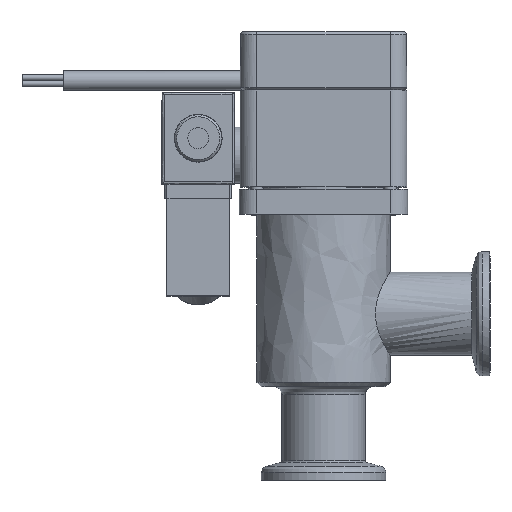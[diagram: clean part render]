
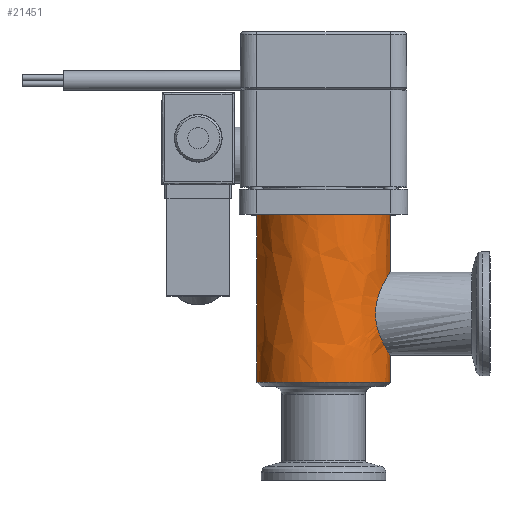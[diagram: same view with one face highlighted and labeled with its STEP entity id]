
A CAD part, top view. The second image highlights one B-rep face of the part: STEP entity #21451.
In plain terms, the highlighted free-form (B-spline) face has degree [2, 1] with [7, 2] control points.
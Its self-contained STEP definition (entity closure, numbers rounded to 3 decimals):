
#19988=CARTESIAN_POINT('V34',(23.5,16.,
   0.0));
#19989=VERTEX_POINT('V34',#19988);
#19997=CARTESIAN_POINT('E59',(23.5,16.,
   0.));
#19998=CARTESIAN_POINT('E59',(23.5,16.,
   27.713));
#19999=CARTESIAN_POINT('E59',(23.5,-8.,
   13.856));
#20000=CARTESIAN_POINT('E59',(23.5,-32.0,0.)
   );
#20001=CARTESIAN_POINT('E59',(23.5,-8.,
   -13.856));
#20002=CARTESIAN_POINT('E59',(23.5,16.,
   -27.713));
#20003=CARTESIAN_POINT('E59',(23.5,16.,
   0.));
#20011=(BOUNDED_CURVE()B_SPLINE_CURVE(2,(#19997,#19998,#19999,
   #20000,#20001,#20002,#20003),.CIRCULAR_ARC.,.T.,.U.)
   B_SPLINE_CURVE_WITH_KNOTS((3,2,2,3),(2.0,24.214,
   46.429,68.643),.UNSPECIFIED.)CURVE()
   GEOMETRIC_REPRESENTATION_ITEM()RATIONAL_B_SPLINE_CURVE((1.0,
   0.5,1.0,0.5,1.0,0.5,1.0)
   )REPRESENTATION_ITEM('E59'));
#20012=EDGE_CURVE('E59',#19989,#19989,#20011,.T.);
#20059=CARTESIAN_POINT('V7',(63.7,16.,
   0.0));
#20060=VERTEX_POINT('V7',#20059);
#20084=CARTESIAN_POINT('E10',(63.7,16.,
   0.0));
#20085=CARTESIAN_POINT('E10',(63.7,16.,
   -27.713));
#20086=CARTESIAN_POINT('E10',(63.7,-8.,
   -13.856));
#20087=CARTESIAN_POINT('E10',(63.7,-32.,
   0.));
#20088=CARTESIAN_POINT('E10',(63.7,-8.,
   13.856));
#20089=CARTESIAN_POINT('E10',(63.7,16.,
   27.713));
#20090=CARTESIAN_POINT('E10',(63.7,16.,
   0.0));
#20098=(BOUNDED_CURVE()B_SPLINE_CURVE(2,(#20084,#20085,#20086,
   #20087,#20088,#20089,#20090),.CIRCULAR_ARC.,.T.,.U.)
   B_SPLINE_CURVE_WITH_KNOTS((3,2,2,3),(0.0,197.184,
   394.368,591.552),.UNSPECIFIED.)CURVE()
   GEOMETRIC_REPRESENTATION_ITEM()RATIONAL_B_SPLINE_CURVE((1.0,
   0.5,1.0,0.5,1.0,0.5,1.0)
   )REPRESENTATION_ITEM('E10'));
#20099=EDGE_CURVE('E10',#20060,#20060,#20098,.T.);
#21360=CARTESIAN_POINT('F26',(22.5,16.,
   0.0));
#21361=CARTESIAN_POINT('F26',(22.5,16.,
   27.713));
#21362=CARTESIAN_POINT('F26',(22.5,-8.,
   13.856));
#21363=CARTESIAN_POINT('F26',(22.5,-32.,
   0.));
#21364=CARTESIAN_POINT('F26',(22.5,-8.,
   -13.856));
#21365=CARTESIAN_POINT('F26',(22.5,16.,
   -27.713));
#21366=CARTESIAN_POINT('F26',(22.5,16.,
   0.0));
#21367=CARTESIAN_POINT('F26',(63.7,16.,
   0.0));
#21368=CARTESIAN_POINT('F26',(63.7,16.,
   27.713));
#21369=CARTESIAN_POINT('F26',(63.7,-8.,
   13.856));
#21370=CARTESIAN_POINT('F26',(63.7,-32.,
   0.));
#21371=CARTESIAN_POINT('F26',(63.7,-8.,
   -13.856));
#21372=CARTESIAN_POINT('F26',(63.7,16.,
   -27.713));
#21373=CARTESIAN_POINT('F26',(63.7,16.,
   0.0));
#21381=(BOUNDED_SURFACE()B_SPLINE_SURFACE(2,1,((#21360,#21367),(
   #21361,#21368),(#21362,#21369),(#21363,#21370),(#21364,
   #21371),(#21365,#21372),(#21366,#21373)),.CYLINDRICAL_SURF.,
   .T.,.F.,.U.)B_SPLINE_SURFACE_WITH_KNOTS((3,2,2,3),(2,2),(0.0,
   1.345,2.691,4.036),(0.0,1.0),
   .UNSPECIFIED.)GEOMETRIC_REPRESENTATION_ITEM()
   RATIONAL_B_SPLINE_SURFACE(((1.0,1.0),(0.5,
   0.5),(1.0,1.0),(0.5,
   0.5),(1.0,1.0),(0.5,
   0.5),(1.0,1.0)))REPRESENTATION_ITEM('F26')SURFACE(
   ));
#21382=ORIENTED_EDGE('E59',*,*,#20012,.F.);
#21383=CARTESIAN_POINT('V29',(32.0,16.,0.0));
#21384=VERTEX_POINT('V29',#21383);
#21385=CARTESIAN_POINT('E47',(32.0,16.,0.0));
#21386=CARTESIAN_POINT('E47',(23.5,16.,
   0.0));
#21387=B_SPLINE_CURVE_WITH_KNOTS('E47',1,(#21385,#21386),
   .POLYLINE_FORM.,.F.,.U.,(2,2),(0.769,
   0.976),.UNSPECIFIED.);
#21388=EDGE_CURVE('E47',#21384,#19989,#21387,.T.);
#21389=ORIENTED_EDGE('E47',*,*,#21388,.F.);
#21390=CARTESIAN_POINT('V28',(40.,13.856,
   8.0));
#21391=VERTEX_POINT('V28',#21390);
#21392=CARTESIAN_POINT('E46',(40.,13.856,
   8.0));
#21393=CARTESIAN_POINT('E46',(39.497,13.856,
   8.0));
#21394=CARTESIAN_POINT('E46',(38.997,13.884,
   7.953));
#21395=CARTESIAN_POINT('E46',(37.123,14.085,
   7.596));
#21396=CARTESIAN_POINT('E46',(35.898,14.421,
   6.987));
#21397=CARTESIAN_POINT('E46',(33.831,15.134,
   5.282));
#21398=CARTESIAN_POINT('E46',(32.919,15.554,
   4.05));
#21399=CARTESIAN_POINT('E46',(32.141,15.928,
   1.724));
#21400=CARTESIAN_POINT('E46',(32.0,16.,
   0.868));
#21401=CARTESIAN_POINT('E46',(32.0,16.,0.0));
#21402=B_SPLINE_CURVE_WITH_KNOTS('E46',3,(#21392,#21393,#21394,
   #21395,#21396,#21397,#21398,#21399,#21400,#21401),.UNSPECIFIED.,
   .F.,.U.,(4,2,2,2,4),(0.0,0.117,0.446,
   0.806,1.0),.UNSPECIFIED.);
#21403=EDGE_CURVE('E46',#21391,#21384,#21402,.T.);
#21404=ORIENTED_EDGE('E46',*,*,#21403,.F.);
#21405=CARTESIAN_POINT('V30',(48.,16.,
   0.0));
#21406=VERTEX_POINT('V30',#21405);
#21407=CARTESIAN_POINT('E50',(48.,16.,
   0.0));
#21408=CARTESIAN_POINT('E50',(48.,16.,
   0.757));
#21409=CARTESIAN_POINT('E50',(47.893,15.946,
   1.506));
#21410=CARTESIAN_POINT('E50',(47.445,15.728,
   3.051));
#21411=CARTESIAN_POINT('E50',(47.088,15.559,
   3.788));
#21412=CARTESIAN_POINT('E50',(45.594,14.912,
   6.036));
#21413=CARTESIAN_POINT('E50',(43.972,14.294,
   7.212));
#21414=CARTESIAN_POINT('E50',(41.414,13.912,
   7.906));
#21415=CARTESIAN_POINT('E50',(40.711,13.856,
   8.0));
#21416=CARTESIAN_POINT('E50',(40.,13.856,
   8.0));
#21417=B_SPLINE_CURVE_WITH_KNOTS('E50',3,(#21407,#21408,#21409,
   #21410,#21411,#21412,#21413,#21414,#21415,#21416),.UNSPECIFIED.,
   .F.,.U.,(4,2,2,2,4),(0.0,0.165,0.354,
   0.828,1.0),.UNSPECIFIED.);
#21418=EDGE_CURVE('E50',#21406,#21391,#21417,.T.);
#21419=ORIENTED_EDGE('E50',*,*,#21418,.F.);
#21420=CARTESIAN_POINT('E49',(63.7,16.,
   0.0));
#21421=CARTESIAN_POINT('E49',(48.,16.,
   0.0));
#21422=B_SPLINE_CURVE_WITH_KNOTS('E49',1,(#21420,#21421),
   .POLYLINE_FORM.,.F.,.U.,(2,2),(0.0,0.381),
   .UNSPECIFIED.);
#21423=EDGE_CURVE('E49',#20060,#21406,#21422,.T.);
#21424=ORIENTED_EDGE('E49',*,*,#21423,.F.);
#21425=ORIENTED_EDGE('F5',*,*,#20099,.F.);
#21426=ORIENTED_EDGE('E49',*,*,#21423,.T.);
#21427=CARTESIAN_POINT('E48',(32.0,16.,0.0));
#21428=CARTESIAN_POINT('E48',(32.0,16.,
   -0.453));
#21429=CARTESIAN_POINT('E48',(32.038,15.981,
   -0.903));
#21430=CARTESIAN_POINT('E48',(32.302,15.85,
   -2.448));
#21431=CARTESIAN_POINT('E48',(32.703,15.654,
   -3.41));
#21432=CARTESIAN_POINT('E48',(34.205,14.992,
   -5.839));
#21433=CARTESIAN_POINT('E48',(35.76,14.382,
   -7.042));
#21434=CARTESIAN_POINT('E48',(38.308,13.94,
   -7.859));
#21435=CARTESIAN_POINT('E48',(39.092,13.863,
   -7.988));
#21436=CARTESIAN_POINT('E48',(40.68,13.851,
   -8.01));
#21437=CARTESIAN_POINT('E48',(41.459,13.913,
   -7.905));
#21438=CARTESIAN_POINT('E48',(42.871,14.136,
   -7.499));
#21439=CARTESIAN_POINT('E48',(43.488,14.278,
   -7.229));
#21440=CARTESIAN_POINT('E48',(45.313,14.791,
   -6.158));
#21441=CARTESIAN_POINT('E48',(46.404,15.251,
   -5.048));
#21442=CARTESIAN_POINT('E48',(47.589,15.793,
   -2.729));
#21443=CARTESIAN_POINT('E48',(48.,16.,
   -1.484));
#21444=CARTESIAN_POINT('E48',(48.,16.,
   0.0));
#21445=B_SPLINE_CURVE_WITH_KNOTS('E48',3,(#21427,#21428,#21429,
   #21430,#21431,#21432,#21433,#21434,#21435,#21436,#21437,#21438,
   #21439,#21440,#21441,#21442,#21443,#21444),.UNSPECIFIED.,.F.,.U.,
   (4,2,2,2,2,2,2,2,4),(0.0,0.047,0.162,
   0.399,0.497,0.595,
   0.681,0.874,1.0),.UNSPECIFIED.);
#21446=EDGE_CURVE('E48',#21384,#21406,#21445,.T.);
#21447=ORIENTED_EDGE('E48',*,*,#21446,.F.);
#21448=ORIENTED_EDGE('E47',*,*,#21388,.T.);
#21449=EDGE_LOOP('F26',(#21382,#21389,#21404,#21419,#21424,#21425,
   #21426,#21447,#21448));
#21450=FACE_OUTER_BOUND('F26',#21449,.F.);
#21451=ADVANCED_FACE('F26',(#21450),#21381,.T.);
